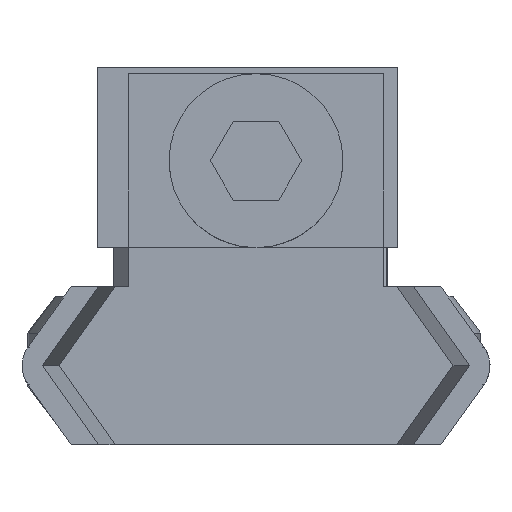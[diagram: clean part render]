
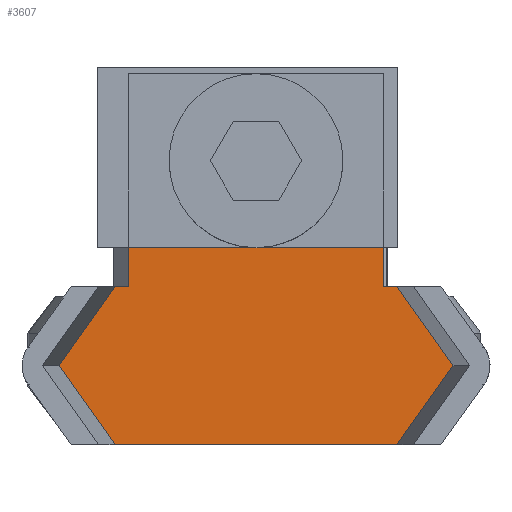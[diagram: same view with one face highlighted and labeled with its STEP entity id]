
A CAD part, left-side view. The second image highlights one B-rep face of the part: STEP entity #3607.
In plain terms, the highlighted planar face has unit normal (-1, 0, 0).
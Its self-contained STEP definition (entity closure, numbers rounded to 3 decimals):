
#266 = VECTOR ( 'NONE', #6187, 1000. ) ;
#387 = EDGE_LOOP ( 'NONE', ( #2956, #1353, #3012, #3878, #6960, #7059, #6083, #5712, #5017, #6121, #1680, #6072 ) ) ;
#422 = VECTOR ( 'NONE', #3919, 1000. ) ;
#439 = CARTESIAN_POINT ( 'NONE',  ( 3., -2.5, -6.228 ) ) ;
#498 = LINE ( 'NONE', #7115, #7182 ) ;
#520 = EDGE_CURVE ( 'NONE', #6492, #1024, #3266, .T. ) ;
#604 = CARTESIAN_POINT ( 'NONE',  ( 3., -5., -4.451 ) ) ;
#707 = CARTESIAN_POINT ( 'NONE',  ( 3., 1.25, -4.04 ) ) ;
#947 = DIRECTION ( 'NONE',  ( -1., 0., 0. ) ) ;
#1024 = VERTEX_POINT ( 'NONE', #1908 ) ;
#1026 = CARTESIAN_POINT ( 'NONE',  ( 3., 0., 4.451 ) ) ;
#1039 = PLANE ( 'NONE',  #3246 ) ;
#1045 = LINE ( 'NONE', #3356, #422 ) ;
#1069 = CARTESIAN_POINT ( 'NONE',  ( 3., 1.25, 0. ) ) ;
#1134 = DIRECTION ( 'NONE',  ( 0., 0., -1. ) ) ;
#1313 = VERTEX_POINT ( 'NONE', #4690 ) ;
#1353 = ORIENTED_EDGE ( 'NONE', *, *, #5859, .T. ) ;
#1426 = VERTEX_POINT ( 'NONE', #6418 ) ;
#1467 = DIRECTION ( 'NONE',  ( 0., -1., 0. ) ) ;
#1498 = DIRECTION ( 'NONE',  ( 0., 0.815, 0.579 ) ) ;
#1538 = EDGE_CURVE ( 'NONE', #5261, #3873, #6736, .T. ) ;
#1548 = DIRECTION ( 'NONE',  ( 0., 0., 1. ) ) ;
#1553 = EDGE_CURVE ( 'NONE', #4318, #3426, #498, .T. ) ;
#1568 = VECTOR ( 'NONE', #1134, 1000. ) ;
#1680 = ORIENTED_EDGE ( 'NONE', *, *, #2861, .F. ) ;
#1698 = LINE ( 'NONE', #2045, #6158 ) ;
#1706 = VERTEX_POINT ( 'NONE', #2316 ) ;
#1842 = CARTESIAN_POINT ( 'NONE',  ( 3., -5., 4.451 ) ) ;
#1908 = CARTESIAN_POINT ( 'NONE',  ( 3., 0., 4.04 ) ) ;
#1943 = VERTEX_POINT ( 'NONE', #707 ) ;
#2014 = LINE ( 'NONE', #5999, #2804 ) ;
#2044 = CARTESIAN_POINT ( 'NONE',  ( 3., 0., -4.451 ) ) ;
#2045 = CARTESIAN_POINT ( 'NONE',  ( 3., -5., -4.451 ) ) ;
#2078 = CARTESIAN_POINT ( 'NONE',  ( 3., 0., 0. ) ) ;
#2126 = LINE ( 'NONE', #4322, #5073 ) ;
#2199 = EDGE_CURVE ( 'NONE', #5261, #7197, #1698, .T. ) ;
#2316 = CARTESIAN_POINT ( 'NONE',  ( 3., -2.5, 6.228 ) ) ;
#2804 = VECTOR ( 'NONE', #1467, 1000. ) ;
#2822 = VECTOR ( 'NONE', #5301, 1000. ) ;
#2861 = EDGE_CURVE ( 'NONE', #1426, #1313, #5524, .T. ) ;
#2956 = ORIENTED_EDGE ( 'NONE', *, *, #3395, .F. ) ;
#3012 = ORIENTED_EDGE ( 'NONE', *, *, #1553, .T. ) ;
#3187 = CARTESIAN_POINT ( 'NONE',  ( 3., -5., 0.665 ) ) ;
#3246 = AXIS2_PLACEMENT_3D ( 'NONE', #2078, #3903, #3924 ) ;
#3266 = LINE ( 'NONE', #6769, #1568 ) ;
#3356 = CARTESIAN_POINT ( 'NONE',  ( 3., 0., -4.04 ) ) ;
#3395 = EDGE_CURVE ( 'NONE', #1943, #7381, #6684, .T. ) ;
#3426 = VERTEX_POINT ( 'NONE', #2044 ) ;
#3607 = ADVANCED_FACE ( 'NONE', ( #7211 ), #1039, .F. ) ;
#3873 = VERTEX_POINT ( 'NONE', #1842 ) ;
#3878 = ORIENTED_EDGE ( 'NONE', *, *, #4032, .F. ) ;
#3903 = DIRECTION ( 'NONE',  ( 1., 0., 0. ) ) ;
#3919 = DIRECTION ( 'NONE',  ( 0., -1., 0. ) ) ;
#3924 = DIRECTION ( 'NONE',  ( 0., 0., -1. ) ) ;
#4032 = EDGE_CURVE ( 'NONE', #7197, #3426, #2126, .T. ) ;
#4074 = EDGE_CURVE ( 'NONE', #3873, #1706, #6218, .T. ) ;
#4318 = VERTEX_POINT ( 'NONE', #5692 ) ;
#4322 = CARTESIAN_POINT ( 'NONE',  ( 3., -2.5, -6.228 ) ) ;
#4690 = CARTESIAN_POINT ( 'NONE',  ( 3., 1.25, 4.04 ) ) ;
#4824 = EDGE_CURVE ( 'NONE', #6492, #1706, #5672, .T. ) ;
#4996 = CARTESIAN_POINT ( 'NONE',  ( 3., -7.185, 2.897 ) ) ;
#5017 = ORIENTED_EDGE ( 'NONE', *, *, #520, .T. ) ;
#5073 = VECTOR ( 'NONE', #1498, 1000. ) ;
#5127 = EDGE_CURVE ( 'NONE', #7381, #1426, #6563, .T. ) ;
#5261 = VERTEX_POINT ( 'NONE', #604 ) ;
#5301 = DIRECTION ( 'NONE',  ( 0., -0.815, 0.579 ) ) ;
#5327 = CARTESIAN_POINT ( 'NONE',  ( 3., 1.25, -0.234 ) ) ;
#5426 = DIRECTION ( 'NONE',  ( 0., 0., 1. ) ) ;
#5524 = LINE ( 'NONE', #1069, #266 ) ;
#5527 = DIRECTION ( 'NONE',  ( 0., 0.815, 0.579 ) ) ;
#5672 = LINE ( 'NONE', #6449, #2822 ) ;
#5692 = CARTESIAN_POINT ( 'NONE',  ( 3., 0., -4.04 ) ) ;
#5712 = ORIENTED_EDGE ( 'NONE', *, *, #4824, .F. ) ;
#5813 = AXIS2_PLACEMENT_3D ( 'NONE', #7299, #947, #1548 ) ;
#5859 = EDGE_CURVE ( 'NONE', #1943, #4318, #1045, .T. ) ;
#5999 = CARTESIAN_POINT ( 'NONE',  ( 3., 0., 4.04 ) ) ;
#6033 = CARTESIAN_POINT ( 'NONE',  ( 3., 1.25, 0. ) ) ;
#6072 = ORIENTED_EDGE ( 'NONE', *, *, #5127, .F. ) ;
#6083 = ORIENTED_EDGE ( 'NONE', *, *, #4074, .T. ) ;
#6121 = ORIENTED_EDGE ( 'NONE', *, *, #6359, .F. ) ;
#6134 = VECTOR ( 'NONE', #5527, 1000. ) ;
#6158 = VECTOR ( 'NONE', #7192, 1000. ) ;
#6187 = DIRECTION ( 'NONE',  ( 0., 0., 1. ) ) ;
#6218 = LINE ( 'NONE', #4996, #6134 ) ;
#6313 = VECTOR ( 'NONE', #5426, 1000. ) ;
#6359 = EDGE_CURVE ( 'NONE', #1313, #1024, #2014, .T. ) ;
#6418 = CARTESIAN_POINT ( 'NONE',  ( 3., 1.25, 0.234 ) ) ;
#6449 = CARTESIAN_POINT ( 'NONE',  ( 3., 0., 4.451 ) ) ;
#6492 = VERTEX_POINT ( 'NONE', #1026 ) ;
#6563 = CIRCLE ( 'NONE', #5813, 2.75 ) ;
#6624 = DIRECTION ( 'NONE',  ( 0., 0., -1. ) ) ;
#6684 = LINE ( 'NONE', #6033, #6313 ) ;
#6736 = LINE ( 'NONE', #3187, #6981 ) ;
#6769 = CARTESIAN_POINT ( 'NONE',  ( 3., 0., -0.176 ) ) ;
#6960 = ORIENTED_EDGE ( 'NONE', *, *, #2199, .F. ) ;
#6981 = VECTOR ( 'NONE', #7145, 1000. ) ;
#7059 = ORIENTED_EDGE ( 'NONE', *, *, #1538, .T. ) ;
#7115 = CARTESIAN_POINT ( 'NONE',  ( 3., 0., -0.176 ) ) ;
#7145 = DIRECTION ( 'NONE',  ( 0., 0., 1. ) ) ;
#7182 = VECTOR ( 'NONE', #6624, 1000. ) ;
#7192 = DIRECTION ( 'NONE',  ( 0., 0.815, -0.579 ) ) ;
#7197 = VERTEX_POINT ( 'NONE', #439 ) ;
#7211 = FACE_OUTER_BOUND ( 'NONE', #387, .T. ) ;
#7299 = CARTESIAN_POINT ( 'NONE',  ( 3., 3.99, 0. ) ) ;
#7381 = VERTEX_POINT ( 'NONE', #5327 ) ;
